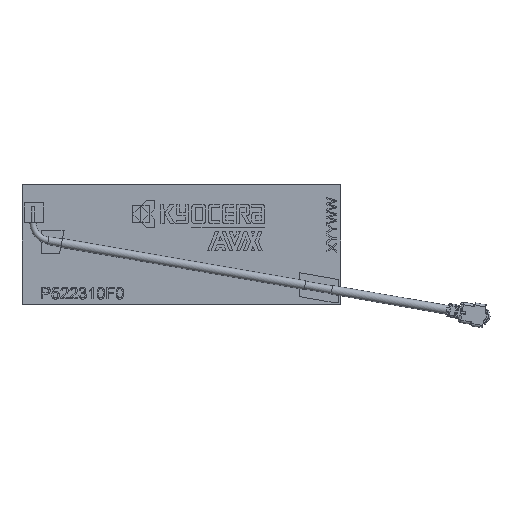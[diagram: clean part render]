
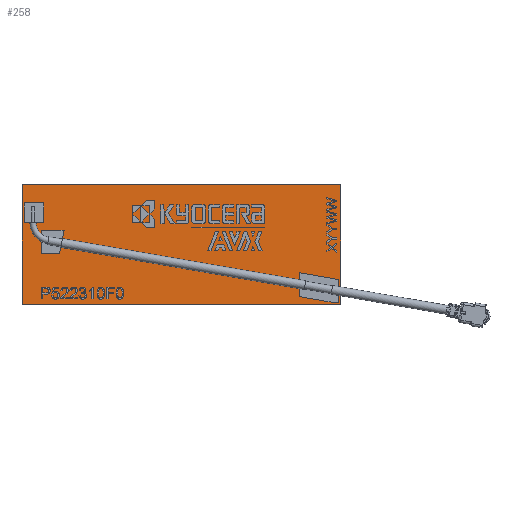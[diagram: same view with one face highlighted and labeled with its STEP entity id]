
A CAD part, top view. The second image highlights one B-rep face of the part: STEP entity #258.
In plain terms, the highlighted planar face has unit normal (0, 0, 1).
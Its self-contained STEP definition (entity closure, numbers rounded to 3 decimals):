
#26=CARTESIAN_POINT('',(-20.2,7.45,0.));
#27=DIRECTION('',(0.,0.,1.));
#28=DIRECTION('',(0.,1.,0.));
#29=AXIS2_PLACEMENT_3D('',#26,#27,#28);
#35=DIRECTION('',(-1.,0.,0.));
#36=VECTOR('',#35,40.4);
#37=CARTESIAN_POINT('',(20.2,7.75,0.));
#38=LINE('',#37,#36);
#42=CARTESIAN_POINT('',(20.2,7.45,0.));
#43=DIRECTION('',(0.,0.,1.));
#44=DIRECTION('',(1.,0.,0.));
#45=AXIS2_PLACEMENT_3D('',#42,#43,#44);
#50=DIRECTION('',(0.,1.,0.));
#51=VECTOR('',#50,14.9);
#52=CARTESIAN_POINT('',(20.5,-7.45,0.));
#53=LINE('',#52,#51);
#57=CARTESIAN_POINT('',(20.2,-7.45,0.));
#58=DIRECTION('',(0.,0.,1.));
#59=DIRECTION('',(0.,-1.,0.));
#60=AXIS2_PLACEMENT_3D('',#57,#58,#59);
#65=DIRECTION('',(1.,0.,0.));
#66=VECTOR('',#65,40.4);
#67=CARTESIAN_POINT('',(-20.2,-7.75,0.));
#68=LINE('',#67,#66);
#72=CARTESIAN_POINT('',(-20.2,-7.45,0.));
#73=DIRECTION('',(0.,0.,1.));
#74=DIRECTION('',(-1.,0.,0.));
#75=AXIS2_PLACEMENT_3D('',#72,#73,#74);
#80=DIRECTION('',(0.,-1.,0.));
#81=VECTOR('',#80,14.9);
#82=CARTESIAN_POINT('',(-20.5,7.45,0.));
#83=LINE('',#82,#81);
#203=CARTESIAN_POINT('',(-20.2,7.75,0.));
#204=CARTESIAN_POINT('',(-20.5,7.45,0.));
#205=VERTEX_POINT('',#203);
#206=VERTEX_POINT('',#204);
#207=CARTESIAN_POINT('',(-20.5,-7.45,0.));
#208=VERTEX_POINT('',#207);
#209=CARTESIAN_POINT('',(-20.2,-7.75,0.));
#210=VERTEX_POINT('',#209);
#211=CARTESIAN_POINT('',(20.2,-7.75,0.));
#212=VERTEX_POINT('',#211);
#213=CARTESIAN_POINT('',(20.5,-7.45,0.));
#214=VERTEX_POINT('',#213);
#215=CARTESIAN_POINT('',(20.5,7.45,0.));
#216=VERTEX_POINT('',#215);
#217=CARTESIAN_POINT('',(20.2,7.75,0.));
#218=VERTEX_POINT('',#217);
#235=CARTESIAN_POINT('',(0.,0.,0.));
#236=DIRECTION('',(0.,0.,1.));
#237=DIRECTION('',(1.,0.,0.));
#238=AXIS2_PLACEMENT_3D('',#235,#236,#237);
#239=PLANE('',#238);
#241=ORIENTED_EDGE('',*,*,#240,.F.);
#243=ORIENTED_EDGE('',*,*,#242,.F.);
#245=ORIENTED_EDGE('',*,*,#244,.F.);
#247=ORIENTED_EDGE('',*,*,#246,.F.);
#249=ORIENTED_EDGE('',*,*,#248,.F.);
#251=ORIENTED_EDGE('',*,*,#250,.F.);
#253=ORIENTED_EDGE('',*,*,#252,.F.);
#255=ORIENTED_EDGE('',*,*,#254,.F.);
#256=EDGE_LOOP('',(#241,#243,#245,#247,#249,#251,#253,#255));
#257=FACE_OUTER_BOUND('',#256,.F.);
#30=CIRCLE('',#29,0.3);
#46=CIRCLE('',#45,0.3);
#61=CIRCLE('',#60,0.3);
#76=CIRCLE('',#75,0.3);
#240=EDGE_CURVE('',#205,#206,#30,.T.);
#242=EDGE_CURVE('',#218,#205,#38,.T.);
#244=EDGE_CURVE('',#216,#218,#46,.T.);
#246=EDGE_CURVE('',#214,#216,#53,.T.);
#248=EDGE_CURVE('',#212,#214,#61,.T.);
#250=EDGE_CURVE('',#210,#212,#68,.T.);
#252=EDGE_CURVE('',#208,#210,#76,.T.);
#254=EDGE_CURVE('',#206,#208,#83,.T.);
#258=ADVANCED_FACE('',(#257),#239,.T.);
